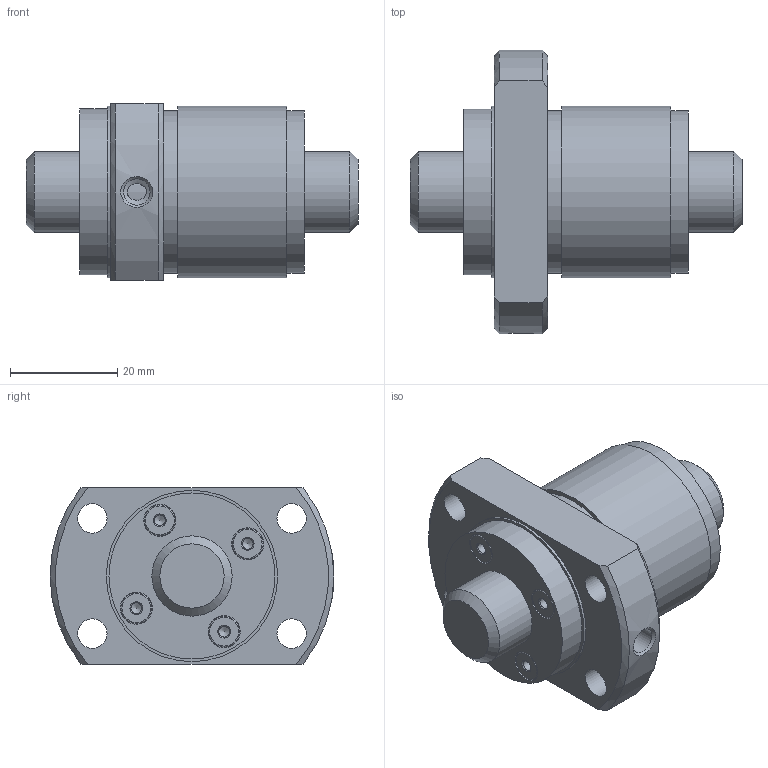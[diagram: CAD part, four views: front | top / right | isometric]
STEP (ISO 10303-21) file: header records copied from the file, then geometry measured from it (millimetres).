
FILE_DESCRIPTION(/* description */ ('STEP AP203'),/* implementation_level */ '2;1');
FILE_NAME(/* name */ 'WGF1540-1.5G1+62LC3_N0_13_0_0',/* time_stamp */ '2025-01-16T06:25:31+01:00',/* author */ ('License CC BY-ND 4.0'),/* organization */ ('CADENAS'),/* preprocessor_version */ 'ST-DEVELOPER v19.3',/* originating_system */ 'PARTsolutions',/* authorisation */ ' ');
FILE_SCHEMA (('CONFIG_CONTROL_DESIGN'));
Length unit declared in the file: millimetre
Products named in the file (3): WGF1540-1.5G1+62LC3_N0_13_0_0; N0130WGF1540-1.50Shaft; NRR0130WGF1540-1.5Nut
Assembly tree (2 placements, depth 2):
  WGF1540-1.5G1+62LC3_N0_13_0_0
    N0130WGF1540-1.50Shaft
    NRR0130WGF1540-1.5Nut
Bounding box: 62 x 53 x 33 mm (x, y, z)
Volume: 43267.9 mm3; surface area: 14435.9 mm2
Topology: 2 solids, 2 shells, 65 faces, 132 edges, 84 vertices
Faces by surface type: cylinder 26, plane 19, cone 16, torus 4
Full cylindrical faces by diameter (mm): 2 x4, 4.917 x1, 5.5 x4, 5.8 x4, 6 x4, 15 x2, 30.4 x2, 31 x1, 32 x2
Entity records: 1587 total; most frequent: CARTESIAN_POINT 280, DIRECTION 276, ORIENTED_EDGE 168, FACE_BOUND 134, AXIS2_PLACEMENT_3D 134, EDGE_LOOP 130, EDGE_CURVE 84, VERTEX_POINT 80
